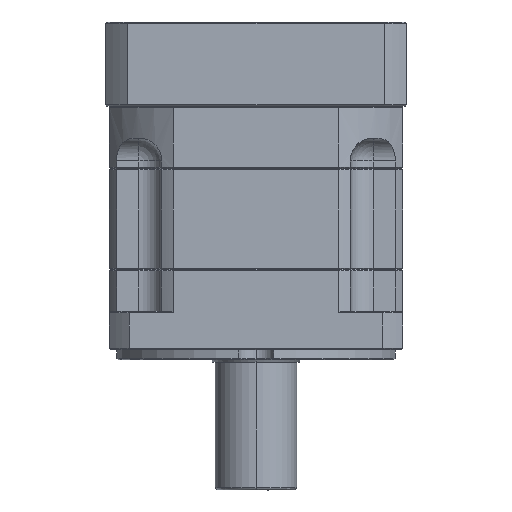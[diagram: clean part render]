
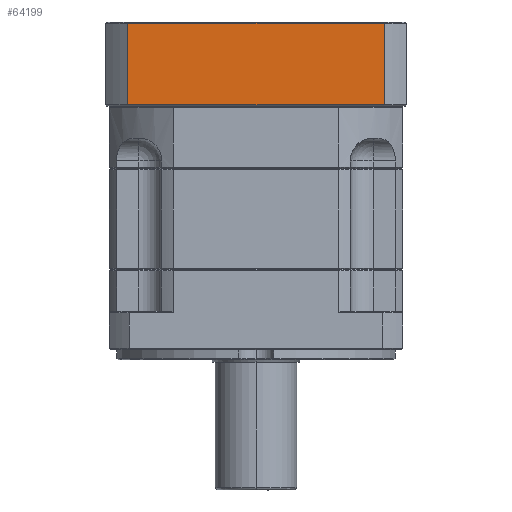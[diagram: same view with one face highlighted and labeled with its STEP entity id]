
A CAD part, left-side view. The second image highlights one B-rep face of the part: STEP entity #64199.
In plain terms, the highlighted planar face has unit normal (-1, 0, 0).
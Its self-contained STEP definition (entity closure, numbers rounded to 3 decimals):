
#6575 = VECTOR ( 'NONE', #115807, 1000. ) ;
#7747 = FACE_OUTER_BOUND ( 'NONE', #62198, .T. ) ;
#9555 = VERTEX_POINT ( 'NONE', #55983 ) ;
#12631 = ORIENTED_EDGE ( 'NONE', *, *, #113964, .T. ) ;
#13153 = EDGE_CURVE ( 'NONE', #51557, #9555, #49313, .T. ) ;
#20266 = DIRECTION ( 'NONE',  ( 0., -1., 0. ) ) ;
#23547 = DIRECTION ( 'NONE',  ( 0., 0., -1. ) ) ;
#25091 = CARTESIAN_POINT ( 'NONE',  ( -5.69, 78.343, -30.51 ) ) ;
#27998 = ORIENTED_EDGE ( 'NONE', *, *, #13153, .T. ) ;
#31832 = DIRECTION ( 'NONE',  ( 1., 0., 0. ) ) ;
#40837 = DIRECTION ( 'NONE',  ( 0., 1., 0. ) ) ;
#41506 = CARTESIAN_POINT ( 'NONE',  ( -5.69, 78.343, -30.01 ) ) ;
#48016 = DIRECTION ( 'NONE',  ( 0., 1., 0. ) ) ;
#49313 = LINE ( 'NONE', #66376, #96963 ) ;
#50432 = VERTEX_POINT ( 'NONE', #25091 ) ;
#51180 = CARTESIAN_POINT ( 'NONE',  ( -5.69, -22.161, -30.51 ) ) ;
#51557 = VERTEX_POINT ( 'NONE', #88686 ) ;
#55983 = CARTESIAN_POINT ( 'NONE',  ( -5.69, -22.161, -62.51 ) ) ;
#58988 = CARTESIAN_POINT ( 'NONE',  ( -5.69, 78.343, -30.01 ) ) ;
#60128 = LINE ( 'NONE', #41506, #6575 ) ;
#60170 = PLANE ( 'NONE',  #70989 ) ;
#62198 = EDGE_LOOP ( 'NONE', ( #105253, #12631, #117503, #27998 ) ) ;
#64199 = ADVANCED_FACE ( 'NONE', ( #7747 ), #60170, .F. ) ;
#66376 = CARTESIAN_POINT ( 'NONE',  ( -5.69, 78.343, -62.51 ) ) ;
#69158 = LINE ( 'NONE', #97122, #73425 ) ;
#70989 = AXIS2_PLACEMENT_3D ( 'NONE', #58988, #31832, #40837 ) ;
#73425 = VECTOR ( 'NONE', #23547, 1000. ) ;
#88686 = CARTESIAN_POINT ( 'NONE',  ( -5.69, 78.343, -62.51 ) ) ;
#93090 = EDGE_CURVE ( 'NONE', #50432, #51557, #60128, .T. ) ;
#96963 = VECTOR ( 'NONE', #20266, 1000. ) ;
#97122 = CARTESIAN_POINT ( 'NONE',  ( -5.69, -22.161, -30.01 ) ) ;
#100728 = VERTEX_POINT ( 'NONE', #51180 ) ;
#103827 = CARTESIAN_POINT ( 'NONE',  ( -5.69, 78.343, -30.51 ) ) ;
#105253 = ORIENTED_EDGE ( 'NONE', *, *, #110312, .F. ) ;
#110312 = EDGE_CURVE ( 'NONE', #100728, #9555, #69158, .T. ) ;
#111252 = VECTOR ( 'NONE', #48016, 1000. ) ;
#113964 = EDGE_CURVE ( 'NONE', #100728, #50432, #114127, .T. ) ;
#114127 = LINE ( 'NONE', #103827, #111252 ) ;
#115807 = DIRECTION ( 'NONE',  ( 0., 0., -1. ) ) ;
#117503 = ORIENTED_EDGE ( 'NONE', *, *, #93090, .T. ) ;
